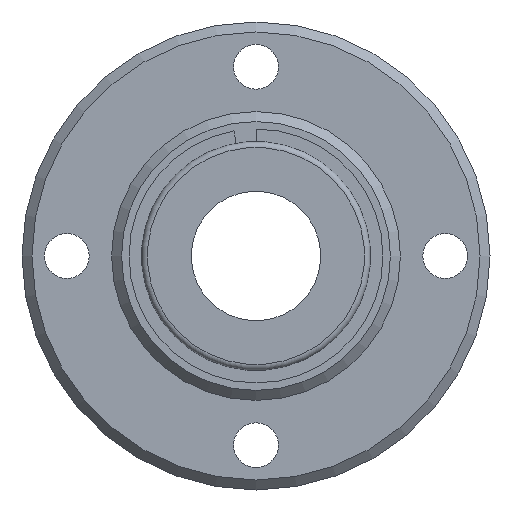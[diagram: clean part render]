
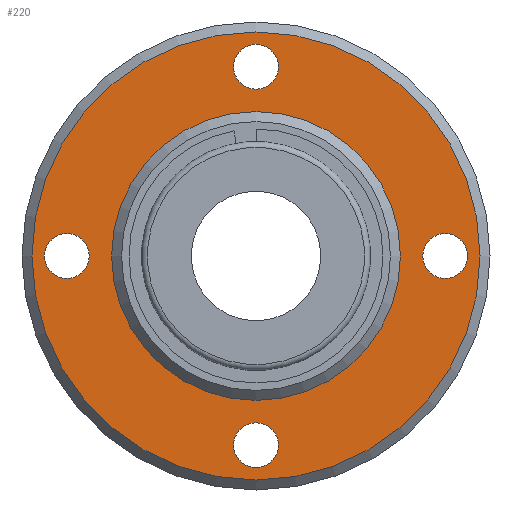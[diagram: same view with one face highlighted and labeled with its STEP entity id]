
A CAD part, left-side view. The second image highlights one B-rep face of the part: STEP entity #220.
In plain terms, the highlighted planar face has unit normal (-1, 0, 0).
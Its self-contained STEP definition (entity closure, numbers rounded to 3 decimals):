
#220=ADVANCED_FACE('',(#265,#266,#267,#268,#269,#270),#271,.F.);
#265=FACE_BOUND('',#387,.T.);
#266=FACE_BOUND('',#388,.T.);
#267=FACE_BOUND('',#389,.T.);
#268=FACE_BOUND('',#390,.T.);
#269=FACE_OUTER_BOUND('',#391,.T.);
#270=FACE_BOUND('',#392,.T.);
#271=PLANE('',#393);
#387=EDGE_LOOP('',(#511));
#388=EDGE_LOOP('',(#512));
#389=EDGE_LOOP('',(#513));
#390=EDGE_LOOP('',(#514));
#391=EDGE_LOOP('',(#515));
#392=EDGE_LOOP('',(#516));
#393=AXIS2_PLACEMENT_3D('',#517,#518,#519);
#511=ORIENTED_EDGE('',*,*,#749,.T.);
#512=ORIENTED_EDGE('',*,*,#750,.T.);
#513=ORIENTED_EDGE('',*,*,#751,.T.);
#514=ORIENTED_EDGE('',*,*,#752,.T.);
#515=ORIENTED_EDGE('',*,*,#753,.F.);
#516=ORIENTED_EDGE('',*,*,#754,.T.);
#517=CARTESIAN_POINT('',(-4.0,14.5,0.0));
#518=DIRECTION('',(1.0,0.0,0.0));
#519=DIRECTION('',(0.0,0.0,-1.0));
#749=EDGE_CURVE('',#808,#808,#809,.T.);
#750=EDGE_CURVE('',#810,#810,#811,.T.);
#751=EDGE_CURVE('',#812,#812,#813,.T.);
#752=EDGE_CURVE('',#814,#814,#815,.T.);
#753=EDGE_CURVE('',#816,#816,#817,.T.);
#754=EDGE_CURVE('',#818,#818,#819,.T.);
#808=VERTEX_POINT('',#916);
#809=CIRCLE('',#917,2.25);
#810=VERTEX_POINT('',#918);
#811=CIRCLE('',#919,2.25);
#812=VERTEX_POINT('',#920);
#813=CIRCLE('',#921,2.25);
#814=VERTEX_POINT('',#922);
#815=CIRCLE('',#923,2.25);
#816=VERTEX_POINT('',#924);
#817=CIRCLE('',#925,22.5);
#818=VERTEX_POINT('',#926);
#819=CIRCLE('',#927,14.5);
#916=CARTESIAN_POINT('',(-4.0,0.0,16.75));
#917=AXIS2_PLACEMENT_3D('',#1041,#1042,#1043);
#918=CARTESIAN_POINT('',(-4.0,-19.0,-2.25));
#919=AXIS2_PLACEMENT_3D('',#1044,#1045,#1046);
#920=CARTESIAN_POINT('',(-4.0,0.0,-21.25));
#921=AXIS2_PLACEMENT_3D('',#1047,#1048,#1049);
#922=CARTESIAN_POINT('',(-4.0,19.0,-2.25));
#923=AXIS2_PLACEMENT_3D('',#1050,#1051,#1052);
#924=CARTESIAN_POINT('',(-4.0,0.0,-22.5));
#925=AXIS2_PLACEMENT_3D('',#1053,#1054,#1055);
#926=CARTESIAN_POINT('',(-4.0,0.0,-14.5));
#927=AXIS2_PLACEMENT_3D('',#1056,#1057,#1058);
#1041=CARTESIAN_POINT('',(-4.0,0.0,19.0));
#1042=DIRECTION('',(1.0,0.0,0.0));
#1043=DIRECTION('',(0.0,0.0,-1.0));
#1044=CARTESIAN_POINT('',(-4.0,-19.0,0.0));
#1045=DIRECTION('',(1.0,0.0,0.0));
#1046=DIRECTION('',(0.0,0.0,-1.0));
#1047=CARTESIAN_POINT('',(-4.0,0.0,-19.0));
#1048=DIRECTION('',(1.0,0.0,0.0));
#1049=DIRECTION('',(0.0,0.0,-1.0));
#1050=CARTESIAN_POINT('',(-4.0,19.0,0.0));
#1051=DIRECTION('',(1.0,0.0,0.0));
#1052=DIRECTION('',(0.0,0.0,-1.0));
#1053=CARTESIAN_POINT('',(-4.0,0.0,0.0));
#1054=DIRECTION('',(1.0,0.0,0.0));
#1055=DIRECTION('',(0.0,0.0,-1.0));
#1056=CARTESIAN_POINT('',(-4.0,0.0,0.0));
#1057=DIRECTION('',(1.0,0.0,0.0));
#1058=DIRECTION('',(0.0,0.0,-1.0));
